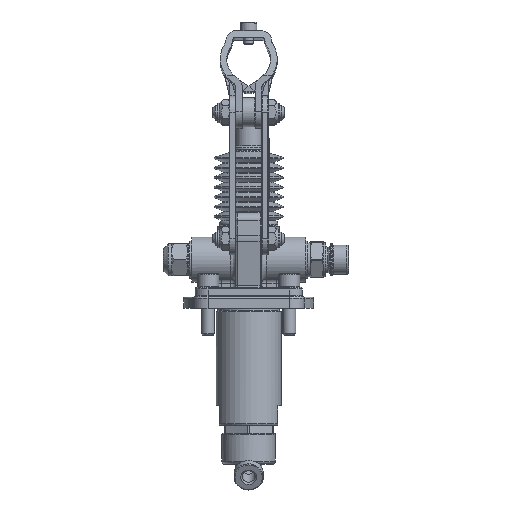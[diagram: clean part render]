
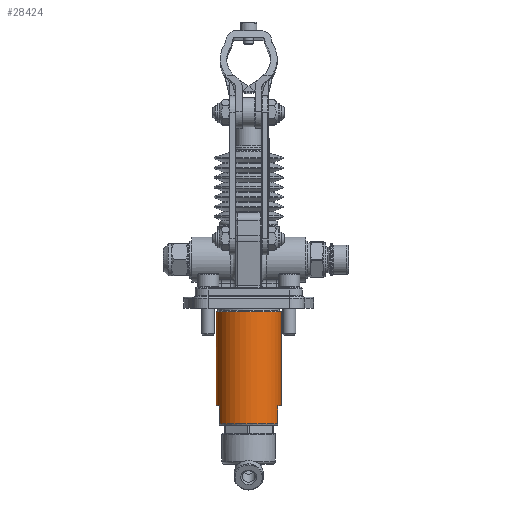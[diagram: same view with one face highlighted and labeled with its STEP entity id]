
A CAD part, left-side view. The second image highlights one B-rep face of the part: STEP entity #28424.
In plain terms, the highlighted cylindrical face has radius 20 mm (diameter 40 mm), a full revolution.
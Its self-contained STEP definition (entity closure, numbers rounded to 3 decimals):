
#28334=CARTESIAN_POINT('',(79.,34.,-3.));
#28335=VERTEX_POINT('',#28334);
#28336=CARTESIAN_POINT('',(59.,34.,-3.));
#28337=DIRECTION('',(0.0,0.0,1.0));
#28338=DIRECTION('',(-1.0,0.0,0.0));
#28339=AXIS2_PLACEMENT_3D('',#28336,#28337,#28338);
#28340=CIRCLE('',#28339,20.0);
#28341=EDGE_CURVE('',#28335,#28335,#28340,.T.);
#28346=CARTESIAN_POINT('',(59.,34.,-73.0));
#28347=DIRECTION('',(0.,0.,1.0));
#28348=DIRECTION('',(-1.0,0.0,0.0));
#28349=AXIS2_PLACEMENT_3D('',#28346,#28347,#28348);
#28350=CYLINDRICAL_SURFACE('',#28349,20.0);
#28351=CARTESIAN_POINT('',(50.282,52.,-61.));
#28352=VERTEX_POINT('',#28351);
#28353=CARTESIAN_POINT('',(50.282,52.,-72.));
#28354=VERTEX_POINT('',#28353);
#28355=CARTESIAN_POINT('',(50.282,52.,-61.0));
#28356=DIRECTION('',(0.0,0.0,-1.0));
#28357=VECTOR('',#28356,11.0);
#28358=LINE('',#28355,#28357);
#28359=EDGE_CURVE('',#28352,#28354,#28358,.T.);
#28360=ORIENTED_EDGE('',*,*,#28359,.T.);
#28361=CARTESIAN_POINT('',(50.282,16.,-72.));
#28362=VERTEX_POINT('',#28361);
#28363=CARTESIAN_POINT('',(59.,34.,-72.));
#28364=DIRECTION('',(0.0,0.0,-1.0));
#28365=DIRECTION('',(-1.0,0.0,0.0));
#28366=AXIS2_PLACEMENT_3D('',#28363,#28364,#28365);
#28367=CIRCLE('',#28366,20.0);
#28368=EDGE_CURVE('',#28362,#28354,#28367,.T.);
#28369=ORIENTED_EDGE('',*,*,#28368,.F.);
#28370=CARTESIAN_POINT('',(50.282,16.,-61.));
#28371=VERTEX_POINT('',#28370);
#28372=CARTESIAN_POINT('',(50.282,16.,-72.0));
#28373=DIRECTION('',(0.0,0.0,1.0));
#28374=VECTOR('',#28373,11.0);
#28375=LINE('',#28372,#28374);
#28376=EDGE_CURVE('',#28362,#28371,#28375,.T.);
#28377=ORIENTED_EDGE('',*,*,#28376,.T.);
#28378=CARTESIAN_POINT('',(67.718,16.,-61.));
#28379=VERTEX_POINT('',#28378);
#28380=CARTESIAN_POINT('',(59.,34.,-61.));
#28381=DIRECTION('',(0.0,0.0,1.0));
#28382=DIRECTION('',(-1.0,0.0,0.0));
#28383=AXIS2_PLACEMENT_3D('',#28380,#28381,#28382);
#28384=CIRCLE('',#28383,20.0);
#28385=EDGE_CURVE('',#28371,#28379,#28384,.T.);
#28386=ORIENTED_EDGE('',*,*,#28385,.T.);
#28387=CARTESIAN_POINT('',(67.718,16.,-72.));
#28388=VERTEX_POINT('',#28387);
#28389=CARTESIAN_POINT('',(67.718,16.,-61.0));
#28390=DIRECTION('',(0.0,0.0,-1.0));
#28391=VECTOR('',#28390,11.0);
#28392=LINE('',#28389,#28391);
#28393=EDGE_CURVE('',#28379,#28388,#28392,.T.);
#28394=ORIENTED_EDGE('',*,*,#28393,.T.);
#28395=CARTESIAN_POINT('',(67.718,52.,-72.));
#28396=VERTEX_POINT('',#28395);
#28397=CARTESIAN_POINT('',(59.,34.,-72.));
#28398=DIRECTION('',(0.0,0.0,-1.0));
#28399=DIRECTION('',(-1.0,0.0,0.0));
#28400=AXIS2_PLACEMENT_3D('',#28397,#28398,#28399);
#28401=CIRCLE('',#28400,20.0);
#28402=EDGE_CURVE('',#28396,#28388,#28401,.T.);
#28403=ORIENTED_EDGE('',*,*,#28402,.F.);
#28404=CARTESIAN_POINT('',(67.718,52.,-61.));
#28405=VERTEX_POINT('',#28404);
#28406=CARTESIAN_POINT('',(67.718,52.,-72.0));
#28407=DIRECTION('',(0.0,0.0,1.0));
#28408=VECTOR('',#28407,11.0);
#28409=LINE('',#28406,#28408);
#28410=EDGE_CURVE('',#28396,#28405,#28409,.T.);
#28411=ORIENTED_EDGE('',*,*,#28410,.T.);
#28412=CARTESIAN_POINT('',(59.,34.,-61.));
#28413=DIRECTION('',(0.0,0.0,1.0));
#28414=DIRECTION('',(-1.0,0.0,0.0));
#28415=AXIS2_PLACEMENT_3D('',#28412,#28413,#28414);
#28416=CIRCLE('',#28415,20.0);
#28417=EDGE_CURVE('',#28405,#28352,#28416,.T.);
#28418=ORIENTED_EDGE('',*,*,#28417,.T.);
#28419=EDGE_LOOP('',(#28360,#28369,#28377,#28386,#28394,#28403,#28411,#28418));
#28420=FACE_OUTER_BOUND('',#28419,.T.);
#28421=ORIENTED_EDGE('',*,*,#28341,.F.);
#28422=EDGE_LOOP('',(#28421));
#28423=FACE_BOUND('',#28422,.T.);
#28424=ADVANCED_FACE('',(#28420,#28423),#28350,.T.);
